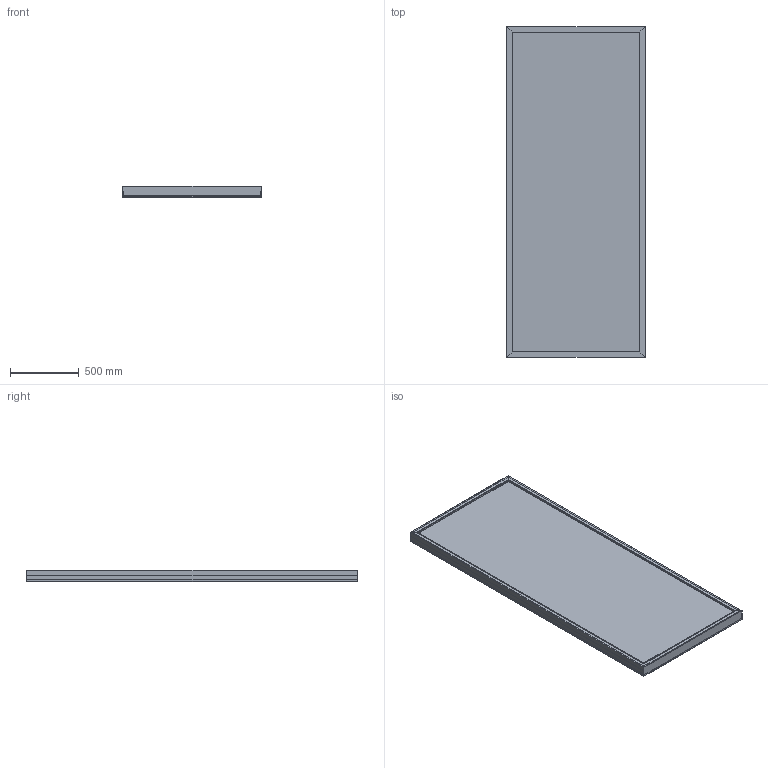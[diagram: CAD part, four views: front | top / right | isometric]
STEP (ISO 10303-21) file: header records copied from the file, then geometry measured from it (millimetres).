
FILE_DESCRIPTION (( 'STEP AP203' ), '1' );
FILE_NAME ('Slotted UpBright® Illuminated Retail Display System-1005.STEP', '2026-04-02T08:54:39', ( '' ), ( '' ), 'SwSTEP 2.0', 'SolidWorks 2025', '' );
FILE_SCHEMA (( 'CONFIG_CONTROL_DESIGN' ));
Length unit declared in the file: millimetre
Products named in the file (1): Slotted UpBright® Illuminated Retail Display System-1005
Bounding box: 1005.74 x 2400 x 80 mm (x, y, z)
Volume: 7854516.7 mm3; surface area: 11920653.6 mm2
Topology: 6 solids, 6 shells, 616 faces, 2256 edges, 1504 vertices
Faces by surface type: plane 568, cylinder 48
Entity records: 24135 total; most frequent: CARTESIAN_POINT 4665, ORIENTED_EDGE 4512, DIRECTION 3394, EDGE_CURVE 2256, LINE 2160, VECTOR 2160, VERTEX_POINT 1504, EDGE_LOOP 772
